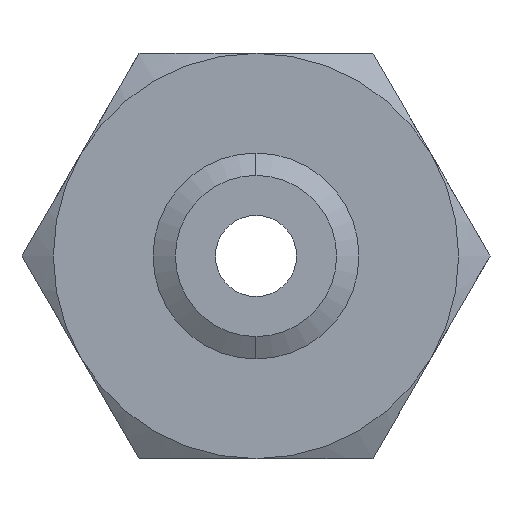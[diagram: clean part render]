
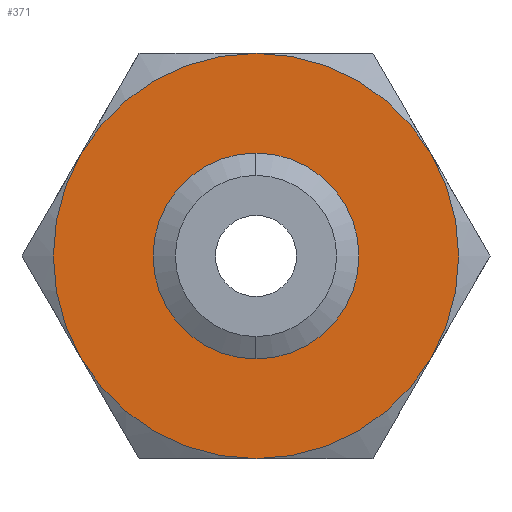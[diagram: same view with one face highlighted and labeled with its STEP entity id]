
A CAD part, front view. The second image highlights one B-rep face of the part: STEP entity #371.
In plain terms, the highlighted planar face has unit normal (0, -1, 0).
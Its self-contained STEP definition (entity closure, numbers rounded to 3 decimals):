
#107 = VERTEX_POINT ( 'NONE', #549 ) ;
#117 = EDGE_CURVE ( 'NONE', #107, #1813, #589, .T. ) ;
#320 = VERTEX_POINT ( 'NONE', #986 ) ;
#370 = ORIENTED_EDGE ( 'NONE', *, *, #401, .F. ) ;
#371 = ADVANCED_FACE ( 'NONE', ( #1025, #1024 ), #1023, .F. ) ;
#373 = EDGE_LOOP ( 'NONE', ( #370, #471, #407, #409, #412, #415 ) ) ;
#399 = VERTEX_POINT ( 'NONE', #1096 ) ;
#401 = EDGE_CURVE ( 'NONE', #399, #320, #1095, .T. ) ;
#407 = ORIENTED_EDGE ( 'NONE', *, *, #408, .F. ) ;
#408 = EDGE_CURVE ( 'NONE', #464, #426, #1140, .T. ) ;
#409 = ORIENTED_EDGE ( 'NONE', *, *, #410, .F. ) ;
#410 = EDGE_CURVE ( 'NONE', #411, #464, #1134, .T. ) ;
#411 = VERTEX_POINT ( 'NONE', #1135 ) ;
#412 = ORIENTED_EDGE ( 'NONE', *, *, #413, .F. ) ;
#413 = EDGE_CURVE ( 'NONE', #414, #411, #1129, .T. ) ;
#414 = VERTEX_POINT ( 'NONE', #1124 ) ;
#415 = ORIENTED_EDGE ( 'NONE', *, *, #416, .F. ) ;
#416 = EDGE_CURVE ( 'NONE', #320, #414, #1123, .T. ) ;
#417 = EDGE_LOOP ( 'NONE', ( #418, #429 ) ) ;
#418 = ORIENTED_EDGE ( 'NONE', *, *, #117, .F. ) ;
#426 = VERTEX_POINT ( 'NONE', #1167 ) ;
#429 = ORIENTED_EDGE ( 'NONE', *, *, #430, .F. ) ;
#430 = EDGE_CURVE ( 'NONE', #1813, #107, #1150, .T. ) ;
#463 = EDGE_CURVE ( 'NONE', #426, #399, #1254, .T. ) ;
#464 = VERTEX_POINT ( 'NONE', #1249 ) ;
#471 = ORIENTED_EDGE ( 'NONE', *, *, #463, .F. ) ;
#549 = CARTESIAN_POINT ( 'NONE',  ( 0., 0., -9.946 ) ) ;
#583 = DIRECTION ( 'NONE',  ( 0., 0., -1. ) ) ;
#584 = DIRECTION ( 'NONE',  ( 0., -1., 0. ) ) ;
#585 = CARTESIAN_POINT ( 'NONE',  ( 0., 0., 0. ) ) ;
#586 = AXIS2_PLACEMENT_3D ( 'NONE', #585, #584, #583 ) ;
#589 = CIRCLE ( 'NONE', #586, 9.946 ) ;
#986 = CARTESIAN_POINT ( 'NONE',  ( 21.651, 0., 12.5 ) ) ;
#1022 = AXIS2_PLACEMENT_3D ( 'NONE', #1082, #1081, #1080 ) ;
#1023 = PLANE ( 'NONE',  #1022 ) ;
#1024 = FACE_BOUND ( 'NONE', #417, .T. ) ;
#1025 = FACE_OUTER_BOUND ( 'NONE', #373, .T. ) ;
#1080 = DIRECTION ( 'NONE',  ( 0., 0., 1. ) ) ;
#1081 = DIRECTION ( 'NONE',  ( 0., 1., 0. ) ) ;
#1082 = CARTESIAN_POINT ( 'NONE',  ( 14.434, 0., -25. ) ) ;
#1091 = DIRECTION ( 'NONE',  ( 0., 0., 1. ) ) ;
#1092 = DIRECTION ( 'NONE',  ( 0., 1., 0. ) ) ;
#1093 = CARTESIAN_POINT ( 'NONE',  ( 0., 0., 0. ) ) ;
#1094 = AXIS2_PLACEMENT_3D ( 'NONE', #1093, #1092, #1091 ) ;
#1095 = CIRCLE ( 'NONE', #1094, 25. ) ;
#1096 = CARTESIAN_POINT ( 'NONE',  ( 0., 0., 25. ) ) ;
#1119 = DIRECTION ( 'NONE',  ( 0., 0., 1. ) ) ;
#1120 = DIRECTION ( 'NONE',  ( 0., 1., 0. ) ) ;
#1121 = CARTESIAN_POINT ( 'NONE',  ( 0., 0., 0. ) ) ;
#1122 = AXIS2_PLACEMENT_3D ( 'NONE', #1121, #1120, #1119 ) ;
#1123 = CIRCLE ( 'NONE', #1122, 25. ) ;
#1124 = CARTESIAN_POINT ( 'NONE',  ( 21.651, 0., -12.5 ) ) ;
#1125 = DIRECTION ( 'NONE',  ( 0., 0., 1. ) ) ;
#1126 = DIRECTION ( 'NONE',  ( 0., 1., 0. ) ) ;
#1127 = CARTESIAN_POINT ( 'NONE',  ( 0., 0., 0. ) ) ;
#1128 = AXIS2_PLACEMENT_3D ( 'NONE', #1127, #1126, #1125 ) ;
#1129 = CIRCLE ( 'NONE', #1128, 25. ) ;
#1130 = DIRECTION ( 'NONE',  ( 0., 0., 1. ) ) ;
#1131 = DIRECTION ( 'NONE',  ( 0., 1., 0. ) ) ;
#1132 = CARTESIAN_POINT ( 'NONE',  ( 0., 0., 0. ) ) ;
#1133 = AXIS2_PLACEMENT_3D ( 'NONE', #1132, #1131, #1130 ) ;
#1134 = CIRCLE ( 'NONE', #1133, 25. ) ;
#1135 = CARTESIAN_POINT ( 'NONE',  ( 0., 0., -25. ) ) ;
#1136 = DIRECTION ( 'NONE',  ( 0., 0., 1. ) ) ;
#1137 = DIRECTION ( 'NONE',  ( 0., 1., 0. ) ) ;
#1138 = CARTESIAN_POINT ( 'NONE',  ( 0., 0., 0. ) ) ;
#1139 = AXIS2_PLACEMENT_3D ( 'NONE', #1138, #1137, #1136 ) ;
#1140 = CIRCLE ( 'NONE', #1139, 25. ) ;
#1146 = DIRECTION ( 'NONE',  ( 0., 0., -1. ) ) ;
#1147 = DIRECTION ( 'NONE',  ( 0., -1., 0. ) ) ;
#1148 = CARTESIAN_POINT ( 'NONE',  ( 0., 0., 0. ) ) ;
#1149 = AXIS2_PLACEMENT_3D ( 'NONE', #1148, #1147, #1146 ) ;
#1150 = CIRCLE ( 'NONE', #1149, 9.946 ) ;
#1167 = CARTESIAN_POINT ( 'NONE',  ( -21.651, 0., 12.5 ) ) ;
#1249 = CARTESIAN_POINT ( 'NONE',  ( -21.651, 0., -12.5 ) ) ;
#1250 = DIRECTION ( 'NONE',  ( 0., 0., 1. ) ) ;
#1251 = DIRECTION ( 'NONE',  ( 0., 1., 0. ) ) ;
#1252 = CARTESIAN_POINT ( 'NONE',  ( 0., 0., 0. ) ) ;
#1253 = AXIS2_PLACEMENT_3D ( 'NONE', #1252, #1251, #1250 ) ;
#1254 = CIRCLE ( 'NONE', #1253, 25. ) ;
#1551 = CARTESIAN_POINT ( 'NONE',  ( 0., 0., 9.946 ) ) ;
#1813 = VERTEX_POINT ( 'NONE', #1551 ) ;
